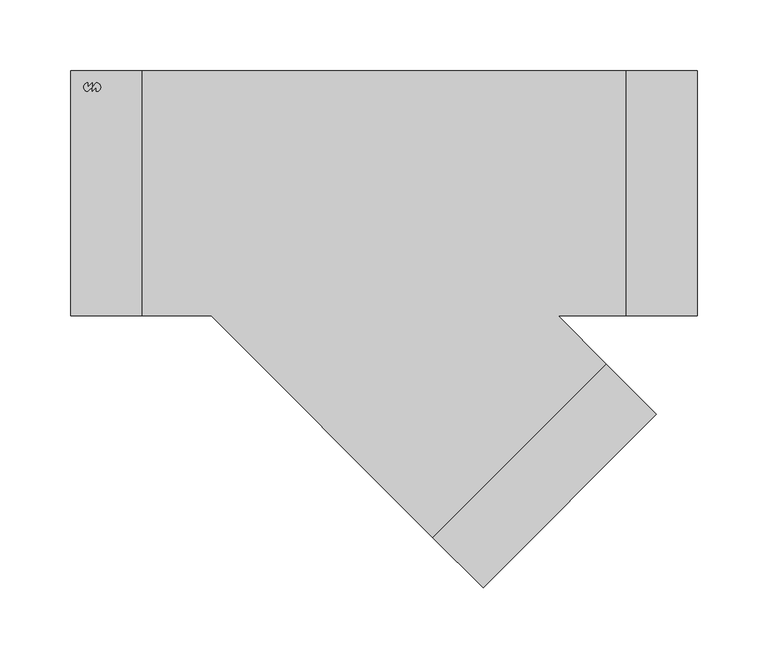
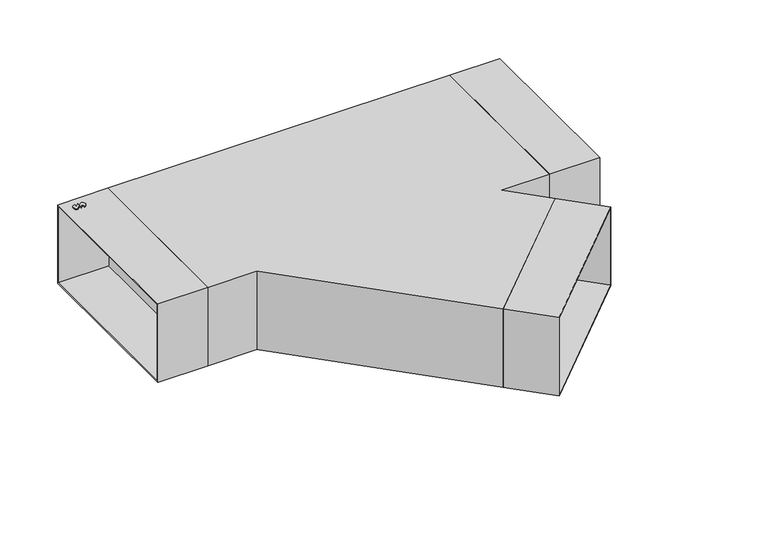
"""IFC4 building model written with IfcOpenShell, lengths in millimetres: duct fitting geometry, NLRS_57_DUF_UN_instortkanaal-stromend-T-stuk-45_LT_velu : T-stuk 45 stromend."""

from ifc_helpers import new_model, si_unit, point, frame, frame_2d, origin, place, context, project, spatial, polyline, circle_curve, trimmed, segment, composite_curve, outline, extrude, source, transform, mapped, element, save


def duct_fitting_c78f7533(model_context):
    return source(origin(), model_context, "Body", "SweptSolid", [
        extrude(outline(composite_curve([segment(polyline([(-117.0, 72.0), (-117.0, 75.0), (-120.0, 72.0), (-120.0, 75.0), (-117.0, 78.0)]), True, "CONTINUOUS"), segment(trimmed(circle_curve(frame_2d((-117.0, 75.0)), 3.0), [point((-117.0, 78.0))], [point((-117.0, 72.0))], False, "CARTESIAN"), True, "CONTINUOUS")], self_intersect=False)), frame((0.0, 0.0, -42.5), z_axis=(0.0, 0.0, 1.0), x_axis=(1.0, 0.0, 0.0)), (0.0, 0.0, 1.0), 1.0),
        extrude(outline(composite_curve([segment(polyline([(-123.0, 78.0), (-123.0, 75.0), (-120.0, 78.0), (-120.0, 75.0), (-123.0, 72.0)]), True, "CONTINUOUS"), segment(trimmed(circle_curve(frame_2d((-123.0, 75.0)), 3.0), [point((-123.0, 72.0))], [point((-123.0, 78.0))], False, "CARTESIAN"), True, "CONTINUOUS")], self_intersect=False)), frame((0.0, 0.0, -42.5), z_axis=(0.0, 0.0, 1.0), x_axis=(1.0, 0.0, 0.0)), (0.0, 0.0, 1.0), 1.0),
        extrude(outline(composite_curve([segment(polyline([(-123.0, 78.0), (-123.0, 75.0), (-120.0, 78.0), (-120.0, 75.0), (-123.0, 72.0)]), True, "CONTINUOUS"), segment(trimmed(circle_curve(frame_2d((-123.0, 75.0)), 3.0), [point((-123.0, 72.0))], [point((-123.0, 78.0))], False, "CARTESIAN"), True, "CONTINUOUS")], self_intersect=False)), frame((0.0, 0.0, 41.5), z_axis=(0.0, 0.0, 1.0), x_axis=(1.0, 0.0, 0.0)), (0.0, 0.0, 1.0), 1.0),
        extrude(outline(composite_curve([segment(polyline([(-117.0, 72.0), (-117.0, 75.0), (-120.0, 72.0), (-120.0, 75.0), (-117.0, 78.0)]), True, "CONTINUOUS"), segment(trimmed(circle_curve(frame_2d((-117.0, 75.0)), 3.0), [point((-117.0, 78.0))], [point((-117.0, 72.0))], False, "CARTESIAN"), True, "CONTINUOUS")], self_intersect=False)), frame((0.0, 0.0, 41.5), z_axis=(0.0, 0.0, 1.0), x_axis=(1.0, 0.0, 0.0)), (0.0, 0.0, 1.0), 1.0),
        extrude(outline(polyline([(171.5, -1.5), (-1.5, -1.5), (-1.5, 81.5), (171.5, 81.5), (171.5, -1.5)]), holes=[polyline([(170.0, 80.0), (0.0, 80.0), (0.0, 0.0), (170.0, 0.0), (170.0, 80.0)])]), frame((156.9777054, -277.1858582, 40.0), z_axis=(-0.7071067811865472, 0.7071067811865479, 0.0), x_axis=(0.7071067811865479, 0.7071067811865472, 0.0)), (0.0, 0.0, 1.0), 50.0),
        extrude(outline(polyline([(86.5, -41.5), (-86.5, -41.5), (-86.5, 41.5), (86.5, 41.5), (86.5, -41.5)]), holes=[polyline([(85.0, 40.0), (-85.0, 40.0), (-85.0, -40.0), (85.0, -40.0), (85.0, 40.0)])]), frame((257.0, 0.0, 0.0), z_axis=(1.0, 0.0, 0.0), x_axis=(0.0, 1.0, 0.0)), (0.0, 0.0, 1.0), 50.0),
        extrude(outline(polyline([(-86.5, 41.5), (86.5, 41.5), (86.5, -41.5), (-86.5, -41.5), (-86.5, 41.5)]), holes=[polyline([(-85.0, -40.0), (85.0, -40.0), (85.0, 40.0), (-85.0, 40.0), (-85.0, -40.0)])]), frame((-135.0, 0.0, 0.0), z_axis=(1.0, 0.0, 0.0), x_axis=(0.0, 1.0, 0.0)), (0.0, 0.0, 1.0), 50.0),
        extrude(outline(polyline([(-85.0, -86.5), (-85.0, 86.5), (257.0, 86.5), (257.0, -86.5), (208.8294731, -86.5), (242.8911793, -120.5617062), (120.5617062, -242.8911793), (-35.8294731, -86.5), (-85.0, -86.5)])), frame((0.0, 0.0, -41.5), z_axis=(0.0, 0.0, 1.0), x_axis=(1.0, 0.0, 0.0)), (0.0, 0.0, 1.0), 83.0),
    ])


if __name__ == "__main__":
    model = new_model("IFC4")
    model_context = context("Model", 3, world=origin())
    ifc_project = project(units=[si_unit("LENGTHUNIT", "METRE", prefix="MILLI")], contexts=[model_context])
    site = spatial("IfcSite", under=ifc_project)
    building = spatial("IfcBuilding", under=site)
    placement = place(None, origin())
    duct_fitting_shape = duct_fitting_c78f7533(model_context)
    element("IfcDuctFitting", 1, ObjectType="NLRS_57_DUF_UN_instortkanaal-stromend-T-stuk-45_LT_velu : T-stuk 45 stromend", at=placement, inside=building, context=model_context, shape_type="MappedRepresentation", body=[
        mapped(duct_fitting_shape, transform((0.0, 0.0, 0.0), x_axis=(1.0, 0.0, 0.0), y_axis=(0.0, 1.0, 0.0), z_axis=(0.0, 0.0, 1.0))),
    ])
    save(model, "model.ifc")
